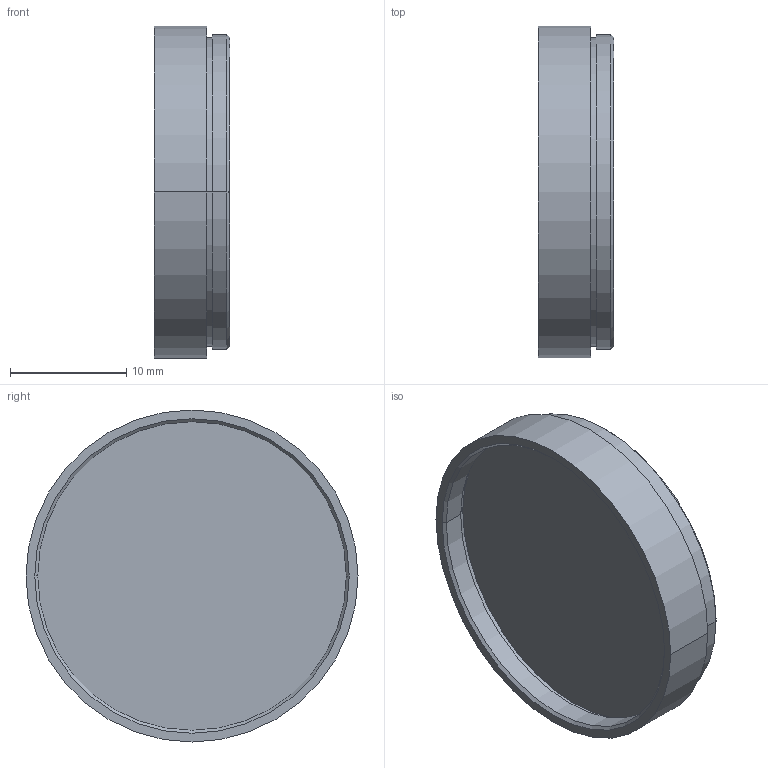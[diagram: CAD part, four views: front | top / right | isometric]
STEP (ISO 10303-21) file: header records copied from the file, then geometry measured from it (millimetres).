
FILE_DESCRIPTION (( 'STEP AP203' ), '1' );
FILE_NAME ('SV-□□□-270(UV_IR_R64_B_VCseries).STEP', '2020-08-28T02:27:57', ( '' ), ( '' ), 'SwSTEP 2.0', 'SolidWorks 2020', '' );
FILE_SCHEMA (( 'CONFIG_CONTROL_DESIGN' ));
Length unit declared in the file: millimetre
Products named in the file (1): SV-□□□-270(UV_IR_R64_B_VCseries)
Bounding box: 6.5 x 28.5 x 28.5 mm (x, y, z)
Volume: 1987.5 mm3; surface area: 2474.1 mm2
Topology: 2 solids, 2 shells, 25 faces, 48 edges, 30 vertices
Faces by surface type: cylinder 14, plane 7, cone 4
Entity records: 723 total; most frequent: DIRECTION 130, CARTESIAN_POINT 104, ORIENTED_EDGE 96, AXIS2_PLACEMENT_3D 56, EDGE_CURVE 48, CIRCLE 30, VERTEX_POINT 30, EDGE_LOOP 30
